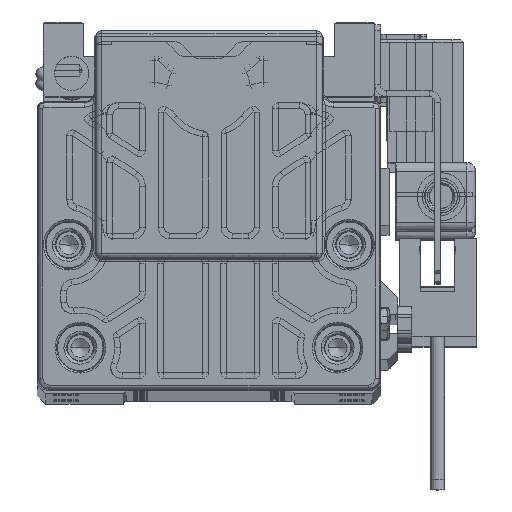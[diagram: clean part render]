
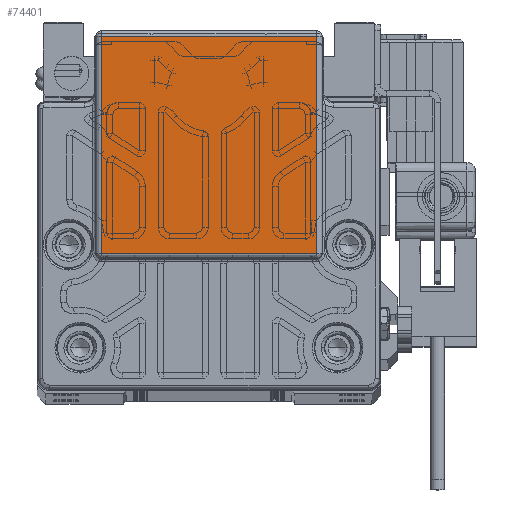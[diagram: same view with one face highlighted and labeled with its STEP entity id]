
A CAD part, top view. The second image highlights one B-rep face of the part: STEP entity #74401.
In plain terms, the highlighted planar face has unit normal (0, 0, 1) as drawn and (0, 0, -1) by its records, which use the part's own axes.
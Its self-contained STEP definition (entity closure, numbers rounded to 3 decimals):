
#3968 = EDGE_CURVE ( 'NONE', #71276, #26342, #76258, .T. ) ;
#11921 = DIRECTION ( 'NONE',  ( 0., 1., 0. ) ) ;
#13688 = CARTESIAN_POINT ( 'NONE',  ( -18.808, 31., -143. ) ) ;
#14607 = DIRECTION ( 'NONE',  ( 0., -1., 0. ) ) ;
#18951 = PLANE ( 'NONE',  #76902 ) ;
#20501 = CARTESIAN_POINT ( 'NONE',  ( 19., 62.447, -143. ) ) ;
#22489 = CARTESIAN_POINT ( 'NONE',  ( 19., 24.518, -143. ) ) ;
#24582 = CARTESIAN_POINT ( 'NONE',  ( 18.808, 24.5, -143. ) ) ;
#26342 = VERTEX_POINT ( 'NONE', #70673 ) ;
#29901 = CARTESIAN_POINT ( 'NONE',  ( -18.808, 24.518, -143. ) ) ;
#29941 = LINE ( 'NONE', #22489, #39352 ) ;
#33117 = DIRECTION ( 'NONE',  ( 1., 0., 0. ) ) ;
#34728 = EDGE_CURVE ( 'NONE', #80851, #26342, #67201, .T. ) ;
#37990 = EDGE_CURVE ( 'NONE', #68607, #80851, #29941, .T. ) ;
#39352 = VECTOR ( 'NONE', #86704, 1000. ) ;
#40904 = DIRECTION ( 'NONE',  ( 0., 0., -1. ) ) ;
#43923 = ORIENTED_EDGE ( 'NONE', *, *, #34728, .F. ) ;
#49112 = VECTOR ( 'NONE', #33117, 1000. ) ;
#50614 = LINE ( 'NONE', #13688, #79315 ) ;
#55125 = EDGE_CURVE ( 'NONE', #71276, #68607, #50614, .T. ) ;
#55600 = ORIENTED_EDGE ( 'NONE', *, *, #55125, .F. ) ;
#58983 = CARTESIAN_POINT ( 'NONE',  ( -18.808, 62.447, -143. ) ) ;
#67201 = LINE ( 'NONE', #24582, #73570 ) ;
#68607 = VERTEX_POINT ( 'NONE', #29901 ) ;
#69338 = ORIENTED_EDGE ( 'NONE', *, *, #3968, .T. ) ;
#70673 = CARTESIAN_POINT ( 'NONE',  ( 18.808, 62.447, -143. ) ) ;
#71276 = VERTEX_POINT ( 'NONE', #58983 ) ;
#73570 = VECTOR ( 'NONE', #73767, 1000. ) ;
#73767 = DIRECTION ( 'NONE',  ( 0., 1., 0. ) ) ;
#74401 = ADVANCED_FACE ( 'NONE', ( #83151 ), #18951, .T. ) ;
#76100 = CARTESIAN_POINT ( 'NONE',  ( 19., 24.5, -143. ) ) ;
#76258 = LINE ( 'NONE', #20501, #49112 ) ;
#76902 = AXIS2_PLACEMENT_3D ( 'NONE', #76100, #40904, #11921 ) ;
#77534 = CARTESIAN_POINT ( 'NONE',  ( 18.808, 24.518, -143. ) ) ;
#79315 = VECTOR ( 'NONE', #14607, 1000. ) ;
#80851 = VERTEX_POINT ( 'NONE', #77534 ) ;
#83151 = FACE_OUTER_BOUND ( 'NONE', #90937, .T. ) ;
#86704 = DIRECTION ( 'NONE',  ( 1., 0., 0. ) ) ;
#89104 = ORIENTED_EDGE ( 'NONE', *, *, #37990, .F. ) ;
#90937 = EDGE_LOOP ( 'NONE', ( #43923, #89104, #55600, #69338 ) ) ;
